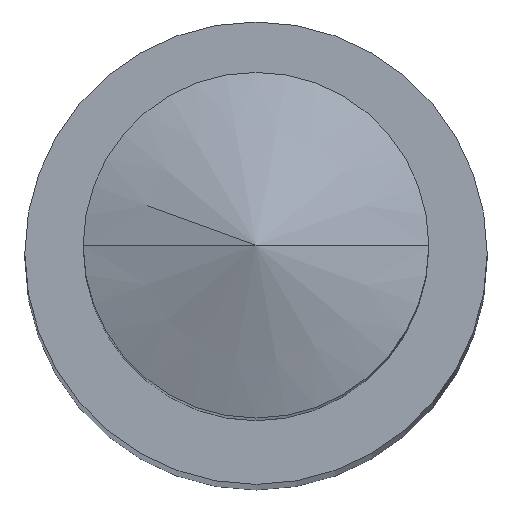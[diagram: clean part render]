
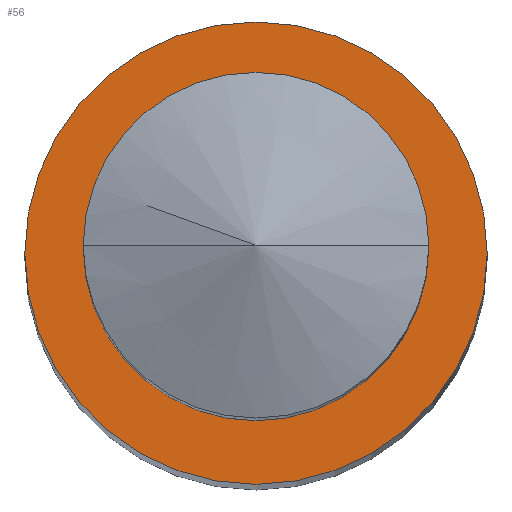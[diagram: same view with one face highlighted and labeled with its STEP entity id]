
A CAD part, top view. The second image highlights one B-rep face of the part: STEP entity #56.
In plain terms, the highlighted planar face has unit normal (0, 0, 1).
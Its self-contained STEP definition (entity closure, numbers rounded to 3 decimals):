
#56=ADVANCED_FACE('',(#107,#108),#109,.T.);
#107=FACE_BOUND('',#150,.T.);
#108=FACE_OUTER_BOUND('',#151,.T.);
#109=PLANE('',#152);
#150=EDGE_LOOP('',(#232,#233));
#151=EDGE_LOOP('',(#234,#235));
#152=AXIS2_PLACEMENT_3D('',#236,#237,#238);
#232=ORIENTED_EDGE('',*,*,#265,.T.);
#233=ORIENTED_EDGE('',*,*,#247,.T.);
#234=ORIENTED_EDGE('',*,*,#244,.T.);
#235=ORIENTED_EDGE('',*,*,#267,.T.);
#236=CARTESIAN_POINT('',(0.0,0.0,28.0));
#237=DIRECTION('',(0.0,0.0,1.0));
#238=DIRECTION('',(1.0,0.0,0.0));
#244=EDGE_CURVE('',#274,#278,#280,.T.);
#247=EDGE_CURVE('',#285,#282,#286,.T.);
#265=EDGE_CURVE('',#282,#285,#310,.T.);
#267=EDGE_CURVE('',#278,#274,#312,.T.);
#274=VERTEX_POINT('',#319);
#278=VERTEX_POINT('',#324);
#280=CIRCLE('',#327,2.0);
#282=VERTEX_POINT('',#329);
#285=VERTEX_POINT('',#333);
#286=CIRCLE('',#334,1.45);
#310=CIRCLE('',#363,1.45);
#312=CIRCLE('',#365,2.0);
#319=CARTESIAN_POINT('',(2.0,0.0,28.0));
#324=CARTESIAN_POINT('',(-2.0,0.,28.0));
#327=AXIS2_PLACEMENT_3D('',#375,#376,#377);
#329=CARTESIAN_POINT('',(1.45,0.0,28.0));
#333=CARTESIAN_POINT('',(-1.45,0.,28.0));
#334=AXIS2_PLACEMENT_3D('',#379,#380,#381);
#363=AXIS2_PLACEMENT_3D('',#405,#406,#407);
#365=AXIS2_PLACEMENT_3D('',#408,#409,#410);
#375=CARTESIAN_POINT('',(0.0,0.0,28.0));
#376=DIRECTION('',(0.0,0.0,1.0));
#377=DIRECTION('',(1.0,0.0,0.0));
#379=CARTESIAN_POINT('',(0.0,0.0,28.0));
#380=DIRECTION('',(0.0,0.0,-1.0));
#381=DIRECTION('',(1.0,0.0,0.0));
#405=CARTESIAN_POINT('',(0.0,0.0,28.0));
#406=DIRECTION('',(0.0,0.0,-1.0));
#407=DIRECTION('',(1.0,0.0,0.0));
#408=CARTESIAN_POINT('',(0.0,0.0,28.0));
#409=DIRECTION('',(0.0,0.0,1.0));
#410=DIRECTION('',(1.0,0.0,0.0));
